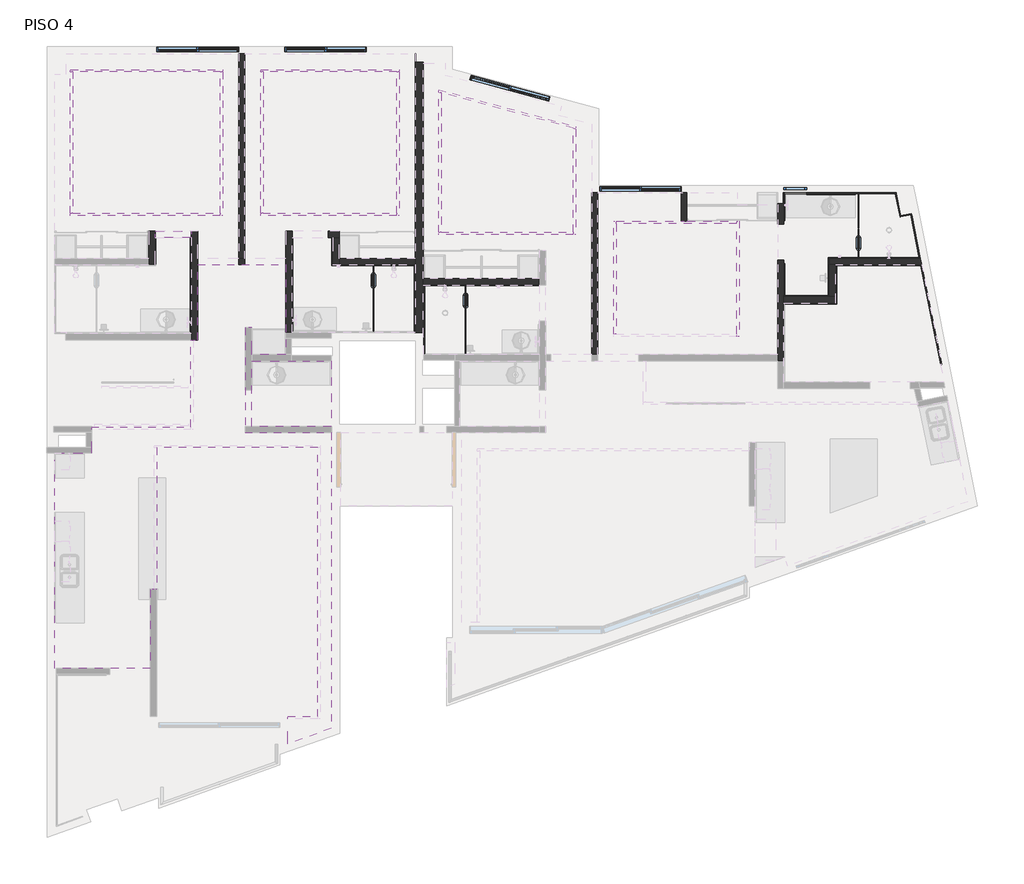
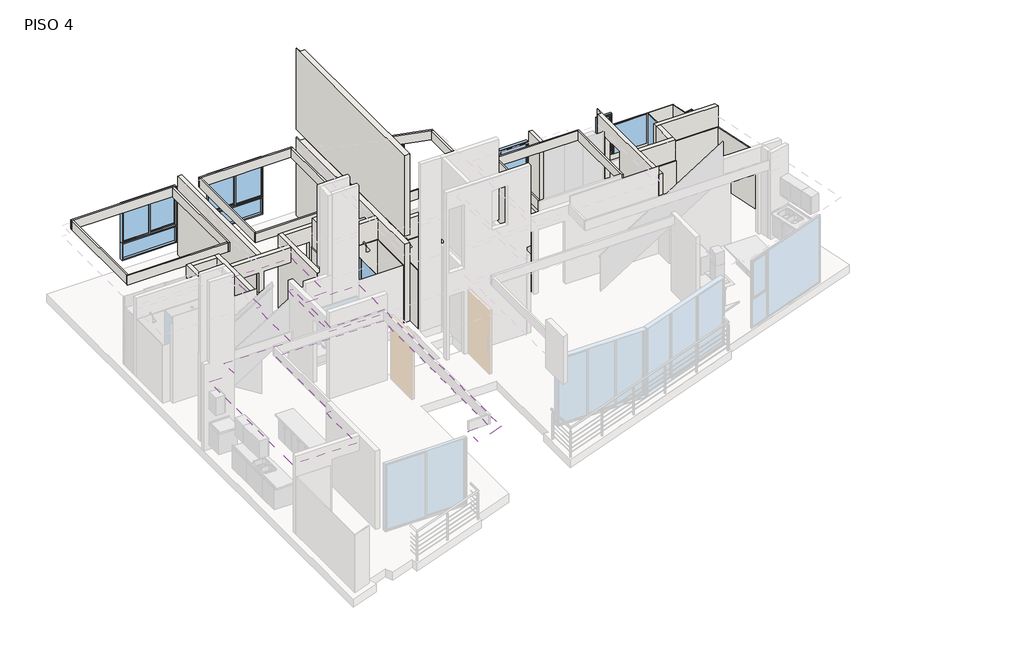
# One storey, part 2 of 3: 53 walls, 9 windows, 2 coverings.
"""IFC4 building model written with IfcOpenShell, lengths in millimetres."""

from ifc_helpers import new_model, si_unit, frame, origin, place, context, project, spatial, polyline, outline, extrude, faceted_brep, transform, mapped, element, save
from components import window_b75bd1a9, window_36b55308, window_504e83ce, window_e2f8e8b7, window_db60b2a9, window_b7257eee, window_5ad79f5d

model = new_model("IFC4")

# Units and contexts
model_context = context("Model", 3, world=origin())
ifc_project = project(units=[si_unit("LENGTHUNIT", "METRE", prefix="MILLI")], contexts=[model_context])

# Site, building, storey
site = spatial("IfcSite", under=ifc_project)
building = spatial("IfcBuilding", under=site)
storey = spatial("IfcBuildingStorey", under=building, Name="PISO 4", Elevation=12000.0)

# Coverings
placement = place(None, origin())
element("IfcCovering", 1, ObjectType="Plafond Tablaroca", at=placement, inside=storey, context=model_context, shape_type="SweptSolid", body=[
    extrude(outline(polyline([(40234.5059119, 31304.0104769), (40234.5059119, 29864.010184), (38484.5059119, 29864.010184), (38484.5059119, 31304.0104769), (39294.5300226, 31304.0104769), (40234.5059119, 31304.0104769)])), frame((0.0, 0.0, 14350.0), z_axis=(0.0, 0.0, 1.0), x_axis=(1.0, 0.0, 0.0)), (0.0, 0.0, 1.0), 52.7),
])
element("IfcCovering", 2, ObjectType="Plafond Tablaroca", at=placement, inside=storey, context=model_context, shape_type="Brep", body=[
    faceted_brep([(34143.8589874, 25532.4819737, 14402.7), (34143.8589874, 24532.4819685, 14402.7), (36254.5300226, 24532.4819685, 14402.7), (36254.5300226, 26269.0176189, 14402.7), (36341.8300226, 26269.0176189, 14402.7), (36394.5300226, 26269.0176189, 14402.7), (36394.5300226, 29394.010184, 14402.7), (39939.5059119, 29394.010184, 14402.7), (39939.5059119, 23470.9402233, 14402.7), (39284.5057602, 23470.9402233, 14402.7), (39284.5057602, 23418.2402233, 14402.7), (39284.5057602, 22864.5526055, 14402.7), (40234.5059119, 23203.0885419, 14402.7), (40234.5059119, 29724.010184, 14402.7), (38344.5059119, 29724.010184, 14402.7), (38344.5059119, 32044.0104769, 14402.7), (38484.5059119, 32044.0104769, 14402.7), (38484.5059119, 31444.0104769, 14402.7), (39234.5300226, 31444.0104769, 14402.7), (39234.5300226, 33428.9784839, 14402.7), (37294.5300226, 33428.9784839, 14402.7), (37294.5300226, 31768.9733508, 14402.7), (37196.5589874, 31768.9733508, 14402.7), (37143.8589874, 31768.9733508, 14402.7), (37143.8589874, 29850.9165883, 14402.7), (34963.8589874, 29850.9165883, 14402.7), (34963.8589874, 29798.2165883, 14402.7), (34963.8589874, 29274.010184, 14402.7), (34143.8589874, 29274.010184, 14402.7), (34143.8589874, 25532.4819737, 14350.0), (34143.8589874, 29274.010184, 14350.0), (34963.8589874, 29274.010184, 14350.0), (34963.8589874, 29850.9165883, 14350.0), (37143.8589874, 29850.9165883, 14350.0), (37143.8589874, 31768.9733508, 14350.0), (37294.5300226, 31768.9733508, 14350.0), (37294.5300226, 33428.9784839, 14350.0), (39234.5300226, 33428.9784839, 14350.0), (39234.5300226, 31444.0104769, 14350.0), (38484.5059119, 31444.0104769, 14350.0), (38484.5059119, 32044.0104769, 14350.0), (38344.5059119, 32044.0104769, 14350.0), (38344.5059119, 29724.010184, 14350.0), (40234.5059119, 29724.010184, 14350.0), (40234.5059119, 23203.0885419, 14350.0), (39284.5057602, 22864.5526055, 14350.0), (39284.5057602, 23470.9402233, 14350.0), (39939.5059119, 23470.9402233, 14350.0), (39939.5059119, 29394.010184, 14350.0), (36394.5300226, 29394.010184, 14350.0), (36394.5300226, 26269.0176189, 14350.0), (36254.5300226, 26269.0176189, 14350.0), (36254.5300226, 24532.4819685, 14350.0), (34143.8589874, 24532.4819685, 14350.0)], [[[0, 1, 2, 3, 4, 5, 6, 7, 8, 9, 10, 11, 12, 13, 14, 15, 16, 17, 18, 19, 20, 21, 22, 23, 24, 25, 26, 27, 28]], [[29, 30, 31, 32, 33, 34, 35, 36, 37, 38, 39, 40, 41, 42, 43, 44, 45, 46, 47, 48, 49, 50, 51, 52, 53]], [[1, 0, 29, 53]], [[2, 1, 53, 52]], [[3, 2, 52, 51]], [[5, 4, 3, 51, 50]], [[6, 5, 50, 49]], [[25, 24, 33, 32]], [[27, 26, 25, 32, 31]], [[28, 27, 31, 30]], [[0, 28, 30, 29]], [[7, 6, 49, 48]], [[13, 12, 44, 43]], [[8, 7, 48, 47]], [[9, 8, 47, 46]], [[11, 10, 9, 46, 45]], [[12, 11, 45, 44]], [[14, 13, 43, 42]], [[15, 14, 42, 41]], [[16, 15, 41, 40]], [[17, 16, 40, 39]], [[18, 17, 39, 38]], [[19, 18, 38, 37]], [[20, 19, 37, 36]], [[21, 20, 36, 35]], [[23, 22, 21, 35, 34]], [[24, 23, 34, 33]]]),
])

# Walls
element("IfcWall", 3, ObjectType="TABLAROCA - 2 CAPAS 1/2\"", at=placement, inside=storey, context=model_context, shape_type="Brep", body=[
    faceted_brep([(47954.5059119, 35014.0104642, 12000.0), (47954.5059119, 34390.3604642, 12000.0), (47954.5059119, 34390.3604642, 14720.0), (47954.5059119, 35014.0104642, 14720.0), (47954.5059119, 35014.0104642, 14350.0), (47954.5059119, 35014.0104642, 12400.0), (48071.9059119, 35014.0104642, 12000.0), (48071.9059119, 35014.0104642, 14720.0), (48071.9059119, 34390.3604642, 14720.0), (48071.9059119, 34390.3604642, 12000.0)], [[[0, 1, 2, 3, 4, 5]], [[6, 7, 8, 9]], [[1, 0, 6, 9]], [[0, 5, 4, 3, 7, 6]], [[2, 1, 9, 8]], [[3, 2, 8, 7]]]),
])
element("IfcWall", 4, ObjectType="Plafond tablaroca", at=placement, inside=storey, context=model_context, shape_type="Brep", body=[
    faceted_brep([(34491.1589874, 37680.4026232, 14402.7), (34543.8589874, 37680.4026232, 14402.7), (37794.5300226, 37680.4026232, 14402.7), (37847.2300226, 37680.4026232, 14402.7), (37847.2300226, 37680.4026232, 14720.0), (37794.5300226, 37680.4026232, 14720.0), (34543.8589874, 37680.4026232, 14720.0), (34491.1589874, 37680.4026232, 14720.0), (34491.1589874, 37733.1026232, 14402.7), (34491.1589874, 37733.1026232, 14720.0), (37847.2300226, 37733.1026232, 14720.0), (37847.2300226, 37733.1026232, 14402.7)], [[[0, 1, 2, 3, 4, 5, 6, 7]], [[8, 9, 10, 11]], [[7, 6, 5, 4, 10, 9]], [[4, 3, 11, 10]], [[0, 7, 9, 8]], [[3, 2, 1, 0, 8, 11]]]),
])
element("IfcWall", 5, ObjectType="Plafond tablaroca", at=placement, inside=storey, context=model_context, shape_type="Brep", body=[
    faceted_brep([(37794.5300226, 37680.4026232, 14402.7), (37794.5300226, 34568.9785701, 14402.7), (37794.5300226, 34516.2785701, 14402.7), (37794.5300226, 34516.2785701, 14720.0), (37794.5300226, 34568.9785701, 14720.0), (37794.5300226, 37680.4026232, 14720.0), (37847.2300226, 37680.4026232, 14402.7), (37847.2300226, 37680.4026232, 14720.0), (37847.2300226, 34516.2785701, 14720.0), (37847.2300226, 34516.2785701, 14402.7)], [[[0, 1, 2, 3, 4, 5]], [[6, 7, 8, 9]], [[5, 4, 3, 8, 7]], [[0, 5, 7, 6]], [[3, 2, 9, 8]], [[2, 1, 0, 6, 9]]]),
])
element("IfcWall", 6, ObjectType="Plafond tablaroca", at=placement, inside=storey, context=model_context, shape_type="Brep", body=[
    faceted_brep([(37794.5300226, 34568.9785701, 14402.7), (34543.8589874, 34568.9785701, 14402.7), (34491.1589874, 34568.9785701, 14402.7), (34491.1589874, 34568.9785701, 14720.0), (34543.8589874, 34568.9785701, 14720.0), (37794.5300226, 34568.9785701, 14720.0), (37794.5300226, 34516.2785701, 14402.7), (37794.5300226, 34516.2785701, 14720.0), (34491.1589874, 34516.2785701, 14720.0), (34491.1589874, 34516.2785701, 14402.7)], [[[0, 1, 2, 3, 4, 5]], [[6, 7, 8, 9]], [[5, 4, 3, 8, 7]], [[0, 5, 7, 6]], [[3, 2, 9, 8]], [[2, 1, 0, 6, 9]]]),
])
element("IfcWall", 7, ObjectType="Plafond tablaroca", at=placement, inside=storey, context=model_context, shape_type="SweptSolid", body=[
    extrude(outline(polyline([(34543.8589874, 37680.4026232), (34543.8589874, 34568.9785701), (34491.1589874, 34568.9785701), (34491.1589874, 37680.4026232), (34543.8589874, 37680.4026232)])), frame((0.0, 0.0, 14402.7), z_axis=(0.0, 0.0, 1.0), x_axis=(1.0, 0.0, 0.0)), (0.0, 0.0, 1.0), 317.3),
])
element("IfcWall", 8, ObjectType="Plafond tablaroca", at=placement, inside=storey, context=model_context, shape_type="Brep", body=[
    faceted_brep([(38681.8300226, 37680.4026232, 14402.7), (38734.5300226, 37680.4026232, 14402.7), (41684.5059119, 37680.4026232, 14402.7), (41737.2059119, 37680.4026232, 14402.7), (41737.2059119, 37680.4026232, 14720.0), (41684.5059119, 37680.4026232, 14720.0), (38734.5300226, 37680.4026232, 14720.0), (38681.8300226, 37680.4026232, 14720.0), (38681.8300226, 37733.1026232, 14402.7), (38681.8300226, 37733.1026232, 14720.0), (41737.2059119, 37733.1026232, 14720.0), (41737.2059119, 37733.1026232, 14402.7)], [[[0, 1, 2, 3, 4, 5, 6, 7]], [[8, 9, 10, 11]], [[7, 6, 5, 4, 10, 9]], [[4, 3, 11, 10]], [[0, 7, 9, 8]], [[3, 2, 1, 0, 8, 11]]]),
])
element("IfcWall", 9, ObjectType="Plafond tablaroca", at=placement, inside=storey, context=model_context, shape_type="Brep", body=[
    faceted_brep([(41684.5059119, 37680.4026232, 14402.7), (41684.5059119, 34568.9785701, 14402.7), (41684.5059119, 34516.2785701, 14402.7), (41684.5059119, 34516.2785701, 14720.0), (41684.5059119, 34568.9785701, 14720.0), (41684.5059119, 37680.4026232, 14720.0), (41737.2059119, 37680.4026232, 14402.7), (41737.2059119, 37680.4026232, 14720.0), (41737.2059119, 34516.2785701, 14720.0), (41737.2059119, 34516.2785701, 14402.7)], [[[0, 1, 2, 3, 4, 5]], [[6, 7, 8, 9]], [[5, 4, 3, 8, 7]], [[0, 5, 7, 6]], [[3, 2, 9, 8]], [[2, 1, 0, 6, 9]]]),
])
element("IfcWall", 10, ObjectType="Plafond tablaroca", at=placement, inside=storey, context=model_context, shape_type="Brep", body=[
    faceted_brep([(41684.5059119, 34568.9785701, 14402.7), (38734.5300226, 34568.9785701, 14402.7), (38681.8300226, 34568.9785701, 14402.7), (38681.8300226, 34568.9785701, 14720.0), (38734.5300226, 34568.9785701, 14720.0), (41684.5059119, 34568.9785701, 14720.0), (41684.5059119, 34516.2785701, 14402.7), (41684.5059119, 34516.2785701, 14720.0), (38681.8300226, 34516.2785701, 14720.0), (38681.8300226, 34516.2785701, 14402.7)], [[[0, 1, 2, 3, 4, 5]], [[6, 7, 8, 9]], [[5, 4, 3, 8, 7]], [[0, 5, 7, 6]], [[3, 2, 9, 8]], [[2, 1, 0, 6, 9]]]),
])
element("IfcWall", 11, ObjectType="Plafond tablaroca", at=placement, inside=storey, context=model_context, shape_type="SweptSolid", body=[
    extrude(outline(polyline([(38734.5300226, 37680.4026232), (38734.5300226, 34568.9785701), (38681.8300226, 34568.9785701), (38681.8300226, 37680.4026232), (38734.5300226, 37680.4026232)])), frame((0.0, 0.0, 14402.7), z_axis=(0.0, 0.0, 1.0), x_axis=(1.0, 0.0, 0.0)), (0.0, 0.0, 1.0), 317.3),
])
element("IfcWall", 12, ObjectType="Plafond tablaroca", at=placement, inside=storey, context=model_context, shape_type="Brep", body=[
    faceted_brep([(42611.8059119, 37233.5489662, 14402.7), (42664.5059119, 37219.3779563, 14402.7), (45574.5059119, 36436.8800645, 14402.7), (45627.2059119, 36422.7090546, 14402.7), (45627.2059119, 36422.7090546, 14720.0), (45574.5059119, 36436.8800645, 14720.0), (42664.5059119, 37219.3779563, 14720.0), (42611.8059119, 37233.5489662, 14720.0), (42611.8059119, 37288.121006, 14402.7), (42611.8059119, 37288.121006, 14720.0), (45627.2059119, 36477.2810943, 14720.0), (45627.2059119, 36477.2810943, 14402.7)], [[[0, 1, 2, 3, 4, 5, 6, 7]], [[8, 9, 10, 11]], [[7, 6, 5, 4, 10, 9]], [[4, 3, 11, 10]], [[0, 7, 9, 8]], [[3, 2, 1, 0, 8, 11]]]),
])
element("IfcWall", 13, ObjectType="Plafond tablaroca", at=placement, inside=storey, context=model_context, shape_type="Brep", body=[
    faceted_brep([(45574.5059119, 36436.8800645, 14402.7), (45574.5059119, 34144.0113905, 14402.7), (45574.5059119, 34091.3113905, 14402.7), (45574.5059119, 34091.3113905, 14720.0), (45574.5059119, 34144.0113905, 14720.0), (45574.5059119, 36436.8800645, 14720.0), (45627.2059119, 36422.7090546, 14402.7), (45627.2059119, 36422.7090546, 14720.0), (45627.2059119, 34091.3113905, 14720.0), (45627.2059119, 34091.3113905, 14402.7)], [[[0, 1, 2, 3, 4, 5]], [[6, 7, 8, 9]], [[5, 4, 3, 8, 7]], [[0, 5, 7, 6]], [[3, 2, 9, 8]], [[2, 1, 0, 6, 9]]]),
])
element("IfcWall", 14, ObjectType="Plafond tablaroca", at=placement, inside=storey, context=model_context, shape_type="Brep", body=[
    faceted_brep([(45574.5059119, 34144.0113905, 14402.7), (42664.5059119, 34144.0113905, 14402.7), (42611.8059119, 34144.0113905, 14402.7), (42611.8059119, 34144.0113905, 14720.0), (42664.5059119, 34144.0113905, 14720.0), (45574.5059119, 34144.0113905, 14720.0), (45574.5059119, 34091.3113905, 14402.7), (45574.5059119, 34091.3113905, 14720.0), (42611.8059119, 34091.3113905, 14720.0), (42611.8059119, 34091.3113905, 14402.7)], [[[0, 1, 2, 3, 4, 5]], [[6, 7, 8, 9]], [[5, 4, 3, 8, 7]], [[0, 5, 7, 6]], [[3, 2, 9, 8]], [[2, 1, 0, 6, 9]]]),
])
element("IfcWall", 15, ObjectType="Plafond tablaroca", at=placement, inside=storey, context=model_context, shape_type="SweptSolid", body=[
    extrude(outline(polyline([(42664.5059119, 37219.3779563), (42664.5059119, 34144.0113905), (42611.8059119, 34144.0113905), (42611.8059119, 37233.5489662), (42664.5059119, 37219.3779563)])), frame((0.0, 0.0, 14402.7), z_axis=(0.0, 0.0, 1.0), x_axis=(1.0, 0.0, 0.0)), (0.0, 0.0, 1.0), 317.3),
])
element("IfcWall", 16, ObjectType="Plafond tablaroca", at=placement, inside=storey, context=model_context, shape_type="Brep", body=[
    faceted_brep([(49174.4822189, 34390.3604642, 14402.7), (49174.4822189, 34337.6604642, 14402.7), (49174.4822189, 31896.7104696, 14402.7), (49174.4822189, 31844.0104696, 14402.7), (49174.4822189, 31844.0104696, 14720.0), (49174.4822189, 31896.7104696, 14720.0), (49174.4822189, 34337.6604642, 14720.0), (49174.4822189, 34390.3604642, 14720.0), (49227.1822189, 34390.3604642, 14402.7), (49227.1822189, 34390.3604642, 14720.0), (49227.1822189, 31844.0104696, 14720.0), (49227.1822189, 31844.0104696, 14402.7)], [[[0, 1, 2, 3, 4, 5, 6, 7]], [[8, 9, 10, 11]], [[7, 6, 5, 4, 10, 9]], [[4, 3, 11, 10]], [[0, 7, 9, 8]], [[3, 2, 1, 0, 8, 11]]]),
])
element("IfcWall", 17, ObjectType="Plafond tablaroca", at=placement, inside=storey, context=model_context, shape_type="Brep", body=[
    faceted_brep([(46514.5059119, 31896.7104696, 14402.7), (46514.5059119, 34337.6604642, 14402.7), (46514.5059119, 34390.3604642, 14402.7), (46514.5059119, 34390.3604642, 14720.0), (46514.5059119, 34337.6604642, 14720.0), (46514.5059119, 31896.7104696, 14720.0), (46461.8059119, 31896.7104696, 14402.7), (46461.8059119, 31896.7104696, 14720.0), (46461.8059119, 34390.3604642, 14720.0), (46461.8059119, 34390.3604642, 14402.7)], [[[0, 1, 2, 3, 4, 5]], [[6, 7, 8, 9]], [[5, 4, 3, 8, 7]], [[0, 5, 7, 6]], [[3, 2, 9, 8]], [[2, 1, 0, 6, 9]]]),
])
element("IfcWall", 18, ObjectType="Plafond tablaroca", at=placement, inside=storey, context=model_context, shape_type="Brep", body=[
    faceted_brep([(46514.5059119, 34337.6604642, 14402.7), (49174.4822189, 34337.6604642, 14402.7), (49174.4822189, 34337.6604642, 14720.0), (46514.5059119, 34337.6604642, 14720.0), (46514.5059119, 34390.3604642, 14402.7), (46514.5059119, 34390.3604642, 14720.0), (47954.5059119, 34390.3604642, 14720.0), (48071.9059119, 34390.3604642, 14720.0), (49174.4822189, 34390.3604642, 14720.0), (49174.4822189, 34390.3604642, 14402.7)], [[[0, 1, 2, 3]], [[4, 5, 6, 7, 8, 9]], [[3, 2, 8, 7, 6, 5]], [[2, 1, 9, 8]], [[0, 3, 5, 4]], [[1, 0, 4, 9]]]),
])
element("IfcWall", 19, ObjectType="Cerámica baño", at=placement, inside=storey, context=model_context, shape_type="Brep", body=[
    faceted_brep([(40249.5059119, 33408.9784839, 12000.0), (42064.5059119, 33408.9784839, 12000.0), (42084.5059119, 33408.9784839, 12000.0), (42084.5059119, 33408.9784839, 14000.0), (42064.5059119, 33408.9784839, 14000.0), (40249.5059119, 33408.9784839, 14000.0), (40249.5059119, 33428.9784839, 12000.0), (40249.5059119, 33428.9784839, 14000.0), (40269.5059119, 33428.9784839, 14000.0), (42084.5059119, 33428.9784839, 14000.0), (42084.5059119, 33428.9784839, 12000.0), (40269.5059119, 33428.9784839, 12000.0)], [[[0, 1, 2, 3, 4, 5]], [[6, 7, 8, 9, 10, 11]], [[2, 1, 0, 6, 11, 10]], [[5, 4, 3, 9, 8, 7]], [[3, 2, 10, 9]], [[0, 5, 7, 6]]]),
])
element("IfcWall", 20, ObjectType="Cerámica baño", at=placement, inside=storey, context=model_context, shape_type="Brep", body=[
    faceted_brep([(42064.5059119, 33408.9784839, 12000.0), (42064.5059119, 31953.9733508, 12000.0), (42064.5059119, 31933.9733508, 12000.0), (42064.5059119, 31933.9733508, 14000.0), (42064.5059119, 31953.9733508, 14000.0), (42064.5059119, 33408.9784839, 14000.0), (42084.5059119, 33408.9784839, 12000.0), (42084.5059119, 33408.9784839, 14000.0), (42084.5059119, 31933.9733508, 14000.0), (42084.5059119, 31933.9733508, 12000.0)], [[[0, 1, 2, 3, 4, 5]], [[6, 7, 8, 9]], [[2, 1, 0, 6, 9]], [[5, 4, 3, 8, 7]], [[3, 2, 9, 8]], [[0, 5, 7, 6]]]),
])
element("IfcWall", 21, ObjectType="Cerámica baño", at=placement, inside=storey, context=model_context, shape_type="SweptSolid", body=[
    extrude(outline(polyline([(42299.5059119, 32964.0113856), (42299.5059119, 31464.0104755), (42279.5059119, 31464.0104755), (42279.5059119, 32964.0113856), (42299.5059119, 32964.0113856)])), frame((0.0, 0.0, 12000.0), z_axis=(0.0, 0.0, 1.0), x_axis=(1.0, 0.0, 0.0)), (0.0, 0.0, 1.0), 2000.0),
])
element("IfcWall", 22, ObjectType="Cerámica baño", at=placement, inside=storey, context=model_context, shape_type="Brep", body=[
    faceted_brep([(42279.5059119, 32964.0113856, 12000.0), (42299.5059119, 32964.0113856, 12000.0), (43179.5059119, 32964.0113856, 12000.0), (43219.5059119, 32964.0113856, 12000.0), (44824.5251366, 32964.0113856, 12000.0), (44824.5251366, 32964.0113856, 14000.0), (42299.5059119, 32964.0113856, 14000.0), (42279.5059119, 32964.0113856, 14000.0), (42279.5059119, 32984.0113856, 12000.0), (42279.5059119, 32984.0113856, 14000.0), (44824.5251366, 32984.0113856, 14000.0), (44824.5251366, 32984.0113856, 12000.0)], [[[0, 1, 2, 3, 4, 5, 6, 7]], [[8, 9, 10, 11]], [[4, 3, 2, 1, 0, 8, 11]], [[7, 6, 5, 10, 9]], [[5, 4, 11, 10]], [[0, 7, 9, 8]]]),
])
element("IfcWall", 23, ObjectType="Cerámica baño", at=placement, inside=storey, context=model_context, shape_type="Brep", body=[
    faceted_brep([(50214.4822189, 34994.0104642, 12000.0), (52670.7130108, 34994.0104642, 12000.0), (52691.1102226, 34994.0104642, 12000.0), (52691.1102226, 34994.0104642, 14000.0), (52670.7130108, 34994.0104642, 14000.0), (50714.4822189, 34994.0104642, 14000.0), (50714.4822189, 34994.0104642, 13000.0), (50214.4822189, 34994.0104642, 13000.0), (50214.4822189, 35014.0104642, 12000.0), (50214.4822189, 35014.0104642, 13000.0), (50714.4822189, 35014.0104642, 13000.0), (50714.4822189, 35014.0104642, 14000.0), (52687.1044459, 35014.0104642, 14000.0), (52687.1044459, 35014.0104642, 12000.0)], [[[0, 1, 2, 3, 4, 5, 6, 7]], [[8, 9, 10, 11, 12, 13]], [[3, 2, 13, 12]], [[2, 1, 0, 8, 13]], [[5, 4, 3, 12, 11]], [[6, 5, 11, 10]], [[7, 6, 10, 9]], [[0, 7, 9, 8]]]),
])
element("IfcWall", 24, ObjectType="Cerámica baño", at=placement, inside=storey, context=model_context, shape_type="Brep", body=[
    faceted_brep([(52670.7130108, 34994.0104642, 12000.0), (52772.9423096, 34483.6010893, 12000.0), (52772.9423096, 34483.6010893, 14000.0), (52670.7130108, 34994.0104642, 14000.0), (52691.1102226, 34994.0104642, 12000.0), (52691.1102226, 34994.0104642, 14000.0), (52788.6250642, 34507.1393817, 14000.0), (52792.5528331, 34487.5288582, 14000.0), (52792.5528331, 34487.5288582, 12000.0), (52788.6250642, 34507.1393817, 12000.0)], [[[0, 1, 2, 3]], [[4, 5, 6, 7, 8, 9]], [[1, 0, 4, 9, 8]], [[3, 2, 7, 6, 5]], [[0, 3, 5, 4]], [[2, 1, 8, 7]]]),
])
element("IfcWall", 25, ObjectType="Cerámica baño", at=placement, inside=storey, context=model_context, shape_type="Brep", body=[
    faceted_brep([(52792.5528331, 34487.5288582, 12000.0), (53008.2685915, 34530.734316, 12000.0), (53027.879115, 34534.6620849, 12000.0), (53027.879115, 34534.6620849, 14000.0), (53008.2685915, 34530.734316, 14000.0), (52792.5528331, 34487.5288582, 14000.0), (53023.9513461, 34554.2726084, 12000.0), (52788.6250642, 34507.1393817, 12000.0), (52788.6250642, 34507.1393817, 14000.0), (53023.9513461, 34554.2726084, 14000.0)], [[[0, 1, 2, 3, 4, 5]], [[6, 7, 8, 9]], [[2, 1, 0, 7, 6]], [[5, 4, 3, 9, 8]], [[0, 5, 8, 7]], [[3, 2, 6, 9]]]),
])
element("IfcWall", 26, ObjectType="Cerámica baño", at=placement, inside=storey, context=model_context, shape_type="Brep", body=[
    faceted_brep([(53008.2685915, 34530.734316, 12000.0), (53196.8917693, 33588.9784839, 12000.0), (53200.897546, 33568.9784839, 12000.0), (53200.897546, 33568.9784839, 14000.0), (53196.8917693, 33588.9784839, 14000.0), (53008.2685915, 34530.734316, 14000.0), (53027.879115, 34534.6620849, 12000.0), (53027.879115, 34534.6620849, 14000.0), (53221.2947578, 33568.9784839, 14000.0), (53221.2947578, 33568.9784839, 12000.0)], [[[0, 1, 2, 3, 4, 5]], [[6, 7, 8, 9]], [[2, 1, 0, 6, 9]], [[5, 4, 3, 8, 7]], [[0, 5, 7, 6]], [[3, 2, 9, 8]]]),
])
element("IfcWall", 27, ObjectType="Cerámica baño", at=placement, inside=storey, context=model_context, shape_type="Brep", body=[
    faceted_brep([(53196.8917693, 33588.9784839, 12000.0), (51876.8917693, 33588.9784839, 12000.0), (51836.8917693, 33588.9784839, 12000.0), (51194.4822189, 33588.9784839, 12000.0), (51194.4822189, 33588.9784839, 14000.0), (53196.8917693, 33588.9784839, 14000.0), (53200.897546, 33568.9784839, 12000.0), (53200.897546, 33568.9784839, 14000.0), (51214.4822189, 33568.9784839, 14000.0), (51194.4822189, 33568.9784839, 14000.0), (51194.4822189, 33568.9784839, 12000.0), (51214.4822189, 33568.9784839, 12000.0)], [[[0, 1, 2, 3, 4, 5]], [[6, 7, 8, 9, 10, 11]], [[3, 2, 1, 0, 6, 11, 10]], [[5, 4, 9, 8, 7]], [[4, 3, 10, 9]], [[0, 5, 7, 6]]]),
])
element("IfcWall", 28, ObjectType="Cerámica baño", at=placement, inside=storey, context=model_context, shape_type="Brep", body=[
    faceted_brep([(51194.4822189, 33568.9784839, 12000.0), (51194.4822189, 32744.0113781, 12000.0), (51194.4822189, 32724.0113781, 12000.0), (51194.4822189, 32724.0113781, 14000.0), (51194.4822189, 32744.0113781, 14000.0), (51194.4822189, 33568.9784839, 14000.0), (51214.4822189, 33568.9784839, 12000.0), (51214.4822189, 33568.9784839, 14000.0), (51214.4822189, 32724.0113781, 14000.0), (51214.4822189, 32724.0113781, 12000.0)], [[[0, 1, 2, 3, 4, 5]], [[6, 7, 8, 9]], [[2, 1, 0, 6, 9]], [[5, 4, 3, 8, 7]], [[0, 5, 7, 6]], [[3, 2, 9, 8]]]),
])
element("IfcWall", 29, ObjectType="Cerámica baño", at=placement, inside=storey, context=model_context, shape_type="Brep", body=[
    faceted_brep([(51194.4822189, 32744.0113781, 12000.0), (50234.4822189, 32744.0113781, 12000.0), (50214.4822189, 32744.0113781, 12000.0), (50214.4822189, 32744.0113781, 14000.0), (50234.4822189, 32744.0113781, 14000.0), (51194.4822189, 32744.0113781, 14000.0), (51194.4822189, 32724.0113781, 12000.0), (51194.4822189, 32724.0113781, 14000.0), (50214.4822189, 32724.0113781, 14000.0), (50214.4822189, 32724.0113781, 12000.0)], [[[0, 1, 2, 3, 4, 5]], [[6, 7, 8, 9]], [[2, 1, 0, 6, 9]], [[5, 4, 3, 8, 7]], [[3, 2, 9, 8]], [[0, 5, 7, 6]]]),
])
element("IfcWall", 30, ObjectType="Cerámica baño", at=placement, inside=storey, context=model_context, shape_type="SweptSolid", body=[
    extrude(outline(polyline([(50234.4822189, 33459.0442532), (50234.4822189, 32744.0113781), (50214.4822189, 32744.0113781), (50214.4822189, 33459.0442532), (50234.4822189, 33459.0442532)])), frame((0.0, 0.0, 12000.0), z_axis=(0.0, 0.0, 1.0), x_axis=(1.0, 0.0, 0.0)), (0.0, 0.0, 1.0), 2000.0),
])
element("IfcWall", 31, ObjectType="Cerámica baño", at=placement, inside=storey, context=model_context, shape_type="Brep", body=[
    faceted_brep([(50234.4822189, 34399.0442532, 12000.0), (50234.4822189, 34994.0104642, 12000.0), (50234.4822189, 34994.0104642, 14000.0), (50234.4822189, 34399.0442532, 14000.0), (50214.4822189, 34399.0442532, 12000.0), (50214.4822189, 34399.0442532, 14000.0), (50214.4822189, 34994.0104642, 14000.0), (50214.4822189, 34994.0104642, 13000.0), (50214.4822189, 34994.0104642, 12000.0)], [[[0, 1, 2, 3]], [[4, 5, 6, 7, 8]], [[1, 0, 4, 8]], [[3, 2, 6, 5]], [[0, 3, 5, 4]], [[2, 1, 8, 7, 6]]]),
])
element("IfcWall", 32, ObjectType="Cerámica baño", at=placement, inside=storey, context=model_context, shape_type="SweptSolid", body=[
    extrude(outline(polyline([(36374.5300226, 34028.9785701), (36374.5300226, 33428.9784839), (36354.5300226, 33428.9784839), (36354.5300226, 34028.9785701), (36374.5300226, 34028.9785701)])), frame((0.0, 0.0, 12000.0), z_axis=(0.0, 0.0, 1.0), x_axis=(1.0, 0.0, 0.0)), (0.0, 0.0, 1.0), 2000.0),
])
element("IfcWall", 33, ObjectType="Cerámica baño", at=placement, inside=storey, context=model_context, shape_type="SweptSolid", body=[
    extrude(outline(polyline([(37154.5300226, 34028.9785701), (37154.5300226, 31928.9733508), (37134.5300226, 31928.9733508), (37134.5300226, 34028.9785701), (37154.5300226, 34028.9785701)])), frame((0.0, 0.0, 12000.0), z_axis=(0.0, 0.0, 1.0), x_axis=(1.0, 0.0, 0.0)), (0.0, 0.0, 1.0), 2000.0),
])
element("IfcWall", 34, ObjectType="Cerámica baño", at=placement, inside=storey, context=model_context, shape_type="SweptSolid", body=[
    extrude(outline(polyline([(39394.5300226, 34028.9785701), (39394.5300226, 31953.9733508), (39374.5300226, 31953.9733508), (39374.5300226, 34028.9785701), (39394.5300226, 34028.9785701)])), frame((0.0, 0.0, 12000.0), z_axis=(0.0, 0.0, 1.0), x_axis=(1.0, 0.0, 0.0)), (0.0, 0.0, 1.0), 2000.0),
])
element("IfcWall", 35, ObjectType="Cerámica baño", at=placement, inside=storey, context=model_context, shape_type="SweptSolid", body=[
    extrude(outline(polyline([(40269.5059119, 34028.9785701), (40269.5059119, 33428.9784839), (40249.5059119, 33428.9784839), (40249.5059119, 34028.9785701), (40269.5059119, 34028.9785701)])), frame((0.0, 0.0, 12000.0), z_axis=(0.0, 0.0, 1.0), x_axis=(1.0, 0.0, 0.0)), (0.0, 0.0, 1.0), 2000.0),
])
element("IfcWall", 36, ObjectType="Cerámica baño", at=placement, inside=storey, context=model_context, shape_type="Brep", body=[
    faceted_brep([(50234.4822189, 32564.0113781, 12000.0), (51374.4822189, 32564.0113781, 12000.0), (51374.4822189, 32564.0113781, 14000.0), (50234.4822189, 32564.0113781, 14000.0), (50234.4822189, 32584.0113781, 12000.0), (50234.4822189, 32584.0113781, 14000.0), (51354.4822189, 32584.0113781, 14000.0), (51374.4822189, 32584.0113781, 14000.0), (51374.4822189, 32584.0113781, 12000.0), (51354.4822189, 32584.0113781, 12000.0)], [[[0, 1, 2, 3]], [[4, 5, 6, 7, 8, 9]], [[1, 0, 4, 9, 8]], [[3, 2, 7, 6, 5]], [[2, 1, 8, 7]], [[0, 3, 5, 4]]]),
])
element("IfcWall", 37, ObjectType="Cerámica baño", at=placement, inside=storey, context=model_context, shape_type="Brep", body=[
    faceted_brep([(51374.4822189, 32584.0113781, 12000.0), (51374.4822189, 33408.9784839, 12000.0), (51374.4822189, 33428.9784839, 12000.0), (51374.4822189, 33428.9784839, 14000.0), (51374.4822189, 33408.9784839, 14000.0), (51374.4822189, 32584.0113781, 14000.0), (51354.4822189, 32584.0113781, 12000.0), (51354.4822189, 32584.0113781, 14000.0), (51354.4822189, 33428.9784839, 14000.0), (51354.4822189, 33428.9784839, 12000.0)], [[[0, 1, 2, 3, 4, 5]], [[6, 7, 8, 9]], [[2, 1, 0, 6, 9]], [[5, 4, 3, 8, 7]], [[0, 5, 7, 6]], [[3, 2, 9, 8]]]),
])
element("IfcWall", 38, ObjectType="Cerámica baño", at=placement, inside=storey, context=model_context, shape_type="Brep", body=[
    faceted_brep([(51374.4822189, 33408.9784839, 12000.0), (53232.9437595, 33408.9784839, 12000.0), (53253.3409713, 33408.9784839, 12000.0), (53253.3409713, 33408.9784839, 14000.0), (53232.9437595, 33408.9784839, 14000.0), (51374.4822189, 33408.9784839, 14000.0), (51374.4822189, 33428.9784839, 12000.0), (51374.4822189, 33428.9784839, 14000.0), (53249.3351946, 33428.9784839, 14000.0), (53249.3351946, 33428.9784839, 12000.0)], [[[0, 1, 2, 3, 4, 5]], [[6, 7, 8, 9]], [[2, 1, 0, 6, 9]], [[5, 4, 3, 8, 7]], [[3, 2, 9, 8]], [[0, 5, 7, 6]]]),
])
element("IfcWall", 39, ObjectType="Cerámica baño", at=placement, inside=storey, context=model_context, shape_type="SweptSolid", body=[
    extrude(outline(polyline([(53669.5081409, 31229.304401), (53232.9437595, 33408.9784839), (53253.3409713, 33408.9784839), (53689.1186644, 31233.2321699), (53669.5081409, 31229.304401)])), frame((0.0, 0.0, 12000.0), z_axis=(0.0, 0.0, 1.0), x_axis=(1.0, 0.0, 0.0)), (0.0, 0.0, 1.0), 2000.0),
])
element("IfcWall", 40, ObjectType="Muro block 14cms_int", at=placement, inside=storey, context=model_context, shape_type="Brep", body=[
    faceted_brep([(37154.5300226, 34168.9785701, 12000.0), (37154.5300226, 31928.9733508, 12000.0), (37154.5300226, 31908.9733508, 12000.0), (37154.5300226, 31768.9733508, 12000.0), (37154.5300226, 31768.9733508, 14720.0), (37154.5300226, 31908.9733508, 14720.0), (37154.5300226, 34028.9785701, 14720.0), (37154.5300226, 34168.9785701, 14720.0), (37154.5300226, 34168.9785701, 14200.0), (37294.5300226, 34168.9785701, 12000.0), (37294.5300226, 34168.9785701, 14720.0), (37294.5300226, 33568.9784839, 14720.0), (37294.5300226, 33428.9784839, 14720.0), (37294.5300226, 31768.9733508, 14720.0), (37294.5300226, 31768.9733508, 12000.0), (37196.5589874, 31768.9733508, 14720.0)], [[[0, 1, 2, 3, 4, 5, 6, 7, 8]], [[9, 10, 11, 12, 13, 14]], [[3, 2, 1, 0, 9, 14]], [[0, 8, 7, 10, 9]], [[3, 14, 13, 15, 4]], [[7, 6, 5, 4, 15, 13, 12, 11, 10]]]),
])
element("IfcWall", 41, ObjectType="Muro block 14cms_int", at=placement, inside=storey, context=model_context, shape_type="Brep", body=[
    faceted_brep([(36214.5300226, 34168.9785701, 12000.0), (36214.5300226, 33568.9784839, 12000.0), (36214.5300226, 33428.9784839, 12000.0), (36214.5300226, 33428.9784839, 14720.0), (36214.5300226, 33568.9784839, 14720.0), (36214.5300226, 34168.9785701, 14720.0), (36354.5300226, 34168.9785701, 12000.0), (36354.5300226, 34168.9785701, 14200.0), (36354.5300226, 34168.9785701, 14720.0), (36354.5300226, 34028.9785701, 14720.0), (36354.5300226, 33428.9784839, 14720.0), (36354.5300226, 33428.9784839, 12000.0)], [[[0, 1, 2, 3, 4, 5]], [[6, 7, 8, 9, 10, 11]], [[2, 1, 0, 6, 11]], [[3, 2, 11, 10]], [[0, 5, 8, 7, 6]], [[5, 4, 3, 10, 9, 8]]]),
])
element("IfcWall", 42, ObjectType="Muro block 14cms_int", at=placement, inside=storey, context=model_context, shape_type="SweptSolid", body=[
    extrude(outline(polyline([(36354.5300226, 34168.9785701), (37154.5300226, 34168.9785701), (37154.5300226, 34028.9785701), (36354.5300226, 34028.9785701), (36354.5300226, 34168.9785701)])), frame((0.0, 0.0, 14200.0), z_axis=(0.0, 0.0, 1.0), x_axis=(1.0, 0.0, 0.0)), (0.0, 0.0, 1.0), 520.0),
])
element("IfcWall", 43, ObjectType="Muro block 14cms_int", at=placement, inside=storey, context=model_context, shape_type="Brep", body=[
    faceted_brep([(45974.5059119, 35014.0104642, 12000.0), (45974.5059119, 31444.0104696, 12000.0), (45974.5059119, 31444.0104696, 14200.0), (45974.5059119, 31444.0104696, 14720.0), (45974.5059119, 35014.0104642, 14720.0), (46114.5059119, 35014.0104642, 12000.0), (46114.5059119, 35014.0104642, 14720.0), (46114.5059119, 31444.0104696, 14720.0), (46114.5059119, 31444.0104696, 14200.0), (46114.5059119, 31444.0104696, 12000.0)], [[[0, 1, 2, 3, 4]], [[5, 6, 7, 8, 9]], [[1, 0, 5, 9]], [[3, 2, 1, 9, 8, 7]], [[0, 4, 6, 5]], [[4, 3, 7, 6]]]),
])
element("IfcWall", 44, ObjectType="Muro block 14cms_int", at=placement, inside=storey, context=model_context, shape_type="Brep", body=[
    faceted_brep([(50074.4822189, 33529.0442532, 12000.0), (50074.4822189, 31444.0104696, 12000.0), (50074.4822189, 31304.0104696, 12000.0), (50074.4822189, 31304.0104696, 13941.1764706), (50074.4822189, 31304.0104696, 14720.0), (50074.4822189, 31330.9168739, 14720.0), (50074.4822189, 31444.0104696, 14720.0), (50074.4822189, 34774.0104642, 14720.0), (50074.4822189, 34774.0104642, 12000.0), (50074.4822189, 34329.0442532, 12000.0), (50074.4822189, 34329.0442532, 14200.0), (50074.4822189, 33529.0442532, 14200.0), (50214.4822189, 31304.0104696, 12000.0), (50214.4822189, 32584.0113781, 12000.0), (50214.4822189, 32724.0113781, 12000.0), (50214.4822189, 33529.0442532, 12000.0), (50214.4822189, 33529.0442532, 14200.0), (50214.4822189, 34329.0442532, 14200.0), (50214.4822189, 34329.0442532, 12000.0), (50214.4822189, 34994.0104642, 12000.0), (50214.4822189, 35014.0104642, 12000.0), (50214.4822189, 35014.0104642, 13000.0), (50214.4822189, 35014.0104642, 14720.0), (50214.4822189, 32724.0113781, 14720.0), (50214.4822189, 32584.0113781, 14720.0), (50214.4822189, 31304.0104696, 14720.0), (50214.4822189, 31304.0104696, 13941.1764706), (50194.4822189, 34774.0104642, 12000.0), (50194.4822189, 35014.0104642, 12000.0), (50194.4822189, 34774.0104642, 14720.0), (50194.4822189, 35014.0104642, 14720.0)], [[[0, 1, 2, 3, 4, 5, 6, 7, 8, 9, 10, 11]], [[12, 13, 14, 15, 16, 17, 18, 19, 20, 21, 22, 23, 24, 25, 26]], [[12, 2, 1, 0, 15, 14, 13]], [[20, 19, 18, 9, 8, 27, 28]], [[11, 16, 15, 0]], [[16, 11, 10, 17]], [[17, 10, 9, 18]], [[2, 12, 26, 25, 4, 3]], [[27, 29, 30, 28]], [[29, 27, 8, 7]], [[22, 21, 20, 28, 30]], [[4, 25, 24, 23, 22, 30, 29, 7, 6, 5]]]),
])
element("IfcWall", 45, ObjectType="Muro block 14cms_int", at=placement, inside=storey, context=model_context, shape_type="Brep", body=[
    faceted_brep([(51214.4822189, 33428.9784839, 12000.0), (51354.4822189, 33428.9784839, 12000.0), (53249.3351946, 33428.9784839, 12000.0), (53249.3351946, 33428.9784839, 14720.0), (51354.4822189, 33428.9784839, 14720.0), (51214.4822189, 33428.9784839, 14720.0), (51214.4822189, 33568.9784839, 12000.0), (51214.4822189, 33568.9784839, 14720.0), (53221.2947578, 33568.9784839, 14720.0), (53221.2947578, 33568.9784839, 12000.0)], [[[0, 1, 2, 3, 4, 5]], [[6, 7, 8, 9]], [[2, 1, 0, 6, 9]], [[3, 2, 9, 8]], [[0, 5, 7, 6]], [[5, 4, 3, 8, 7]]]),
])
element("IfcWall", 46, ObjectType="Muro block 14cms_int", at=placement, inside=storey, context=model_context, shape_type="Brep", body=[
    faceted_brep([(50214.4822189, 32584.0113781, 12000.0), (51354.4822189, 32584.0113781, 12000.0), (51354.4822189, 32584.0113781, 14720.0), (50214.4822189, 32584.0113781, 14720.0), (50214.4822189, 32724.0113781, 12000.0), (50214.4822189, 32724.0113781, 14720.0), (51214.4822189, 32724.0113781, 14720.0), (51354.4822189, 32724.0113781, 14720.0), (51354.4822189, 32724.0113781, 12000.0), (51214.4822189, 32724.0113781, 12000.0)], [[[0, 1, 2, 3]], [[4, 5, 6, 7, 8, 9]], [[1, 0, 4, 9, 8]], [[0, 3, 5, 4]], [[2, 1, 8, 7]], [[3, 2, 7, 6, 5]]]),
])
element("IfcWall", 47, ObjectType="Muro block 14cms_int", at=placement, inside=storey, context=model_context, shape_type="SweptSolid", body=[
    extrude(outline(polyline([(51354.4822189, 33428.9784839), (51354.4822189, 32724.0113781), (51214.4822189, 32724.0113781), (51214.4822189, 33428.9784839), (51354.4822189, 33428.9784839)])), frame((0.0, 0.0, 12000.0), z_axis=(0.0, 0.0, 1.0), x_axis=(1.0, 0.0, 0.0)), (0.0, 0.0, 1.0), 2720.0),
])
element("IfcWall", 48, ObjectType="Muro block 14cms_int", at=placement, inside=storey, context=model_context, shape_type="Brep", body=[
    faceted_brep([(38194.5300226, 33568.9784839, 12000.0), (38194.5300226, 33568.9784839, 14200.0), (37294.5300226, 33568.9784839, 14200.0), (37294.5300226, 33568.9784839, 14720.0), (38194.5300226, 33568.9784839, 14720.0), (38334.5300226, 33568.9784839, 14720.0), (39234.5300226, 33568.9784839, 14720.0), (39234.5300226, 33568.9784839, 14200.0), (38334.5300226, 33568.9784839, 14200.0), (38334.5300226, 33568.9784839, 12000.0), (38194.5300226, 33428.9784839, 14200.0), (38194.5300226, 33428.9784839, 12000.0), (38334.5300226, 33428.9784839, 12000.0), (38334.5300226, 33428.9784839, 14200.0), (39234.5300226, 33428.9784839, 14200.0), (39234.5300226, 33428.9784839, 14720.0), (37294.5300226, 33428.9784839, 14720.0), (37294.5300226, 33428.9784839, 14200.0)], [[[0, 1, 2, 3, 4, 5, 6, 7, 8, 9]], [[10, 11, 12, 13, 14, 15, 16, 17]], [[11, 0, 9, 12]], [[10, 1, 0, 11]], [[1, 10, 17, 2]], [[8, 13, 12, 9]], [[13, 8, 7, 14]], [[3, 2, 17, 16]], [[6, 15, 14, 7]], [[6, 5, 4, 3, 16, 15]]]),
])
element("IfcWall", 49, ObjectType="Muro block 14cms_int", at=placement, inside=storey, context=model_context, shape_type="Brep", body=[
    faceted_brep([(38334.5300226, 33568.9784839, 12000.0), (38334.5300226, 38080.4026232, 12000.0), (38334.5300226, 38080.4026232, 14720.0), (38334.5300226, 33568.9784839, 14720.0), (38334.5300226, 33568.9784839, 14200.0), (38194.5300226, 33568.9784839, 12000.0), (38194.5300226, 33568.9784839, 14200.0), (38194.5300226, 33568.9784839, 14720.0), (38194.5300226, 38080.4026232, 14720.0), (38194.5300226, 38080.4026232, 14350.0), (38194.5300226, 38080.4026232, 12400.0), (38194.5300226, 38080.4026232, 12000.0)], [[[0, 1, 2, 3, 4]], [[5, 6, 7, 8, 9, 10, 11]], [[1, 0, 5, 11]], [[2, 1, 11, 10, 9, 8]], [[0, 4, 3, 7, 6, 5]], [[3, 2, 8, 7]]]),
])
element("IfcWall", 50, ObjectType="Muro block 14cms_int", at=placement, inside=storey, context=model_context, shape_type="Brep", body=[
    faceted_brep([(39374.5300226, 31933.9733508, 12000.0), (39374.5300226, 34168.9785701, 12000.0), (39374.5300226, 34168.9785701, 14200.0), (39374.5300226, 34168.9785701, 14720.0), (39374.5300226, 34028.9785701, 14720.0), (39374.5300226, 31933.9733508, 14720.0), (39234.5300226, 31933.9733508, 12000.0), (39234.5300226, 31933.9733508, 14720.0), (39234.5300226, 33428.9784839, 14720.0), (39234.5300226, 33568.9784839, 14720.0), (39234.5300226, 34168.9785701, 14720.0), (39234.5300226, 34168.9785701, 12000.0)], [[[0, 1, 2, 3, 4, 5]], [[6, 7, 8, 9, 10, 11]], [[1, 0, 6, 11]], [[3, 2, 1, 11, 10]], [[0, 5, 7, 6]], [[5, 4, 3, 10, 9, 8, 7]]]),
])
element("IfcWall", 51, ObjectType="Muro block 14cms_int", at=placement, inside=storey, context=model_context, shape_type="Brep", body=[
    faceted_brep([(40174.5300226, 34028.9785701, 12000.0), (40249.5059119, 34028.9785701, 12000.0), (40269.5059119, 34028.9785701, 12000.0), (40409.5059119, 34028.9785701, 12000.0), (40409.5059119, 34028.9785701, 14720.0), (39374.5300226, 34028.9785701, 14720.0), (39374.5300226, 34028.9785701, 14200.0), (40174.5300226, 34028.9785701, 14200.0), (40409.5059119, 34168.9785701, 12000.0), (40174.5300226, 34168.9785701, 12000.0), (40174.5300226, 34168.9785701, 14200.0), (39374.5300226, 34168.9785701, 14200.0), (39374.5300226, 34168.9785701, 14720.0), (40409.5059119, 34168.9785701, 14720.0)], [[[0, 1, 2, 3, 4, 5, 6, 7]], [[8, 9, 10, 11, 12, 13]], [[3, 2, 1, 0, 9, 8]], [[11, 6, 5, 12]], [[10, 7, 6, 11]], [[7, 10, 9, 0]], [[3, 8, 13, 4]], [[5, 4, 13, 12]]]),
])
element("IfcWall", 52, ObjectType="Muro block 14cms_int", at=placement, inside=storey, context=model_context, shape_type="Brep", body=[
    faceted_brep([(40269.5059119, 34028.9785701, 15000.0), (40269.5059119, 33428.9784839, 15000.0), (40409.5059119, 33428.9784839, 15000.0), (40409.5059119, 33568.9784839, 15000.0), (40409.5059119, 34028.9785701, 15000.0), (40269.5059119, 34028.9785701, 12000.0), (40269.5059119, 33428.9784839, 12000.0), (40409.5059119, 34028.9785701, 12000.0), (40409.5059119, 33428.9784839, 12000.0), (40409.5059119, 33568.9784839, 12000.0)], [[[0, 1, 2, 3, 4]], [[5, 6, 1, 0]], [[7, 4, 3, 2, 8, 9]], [[6, 5, 7, 9, 8]], [[5, 0, 4, 7]], [[1, 6, 8, 2]]]),
])
element("IfcWall", 53, ObjectType="Muro block 14cms_int", at=placement, inside=storey, context=model_context, shape_type="SweptSolid", body=[
    extrude(outline(polyline([(42084.5059119, 33428.9784839), (40409.5059119, 33428.9784839), (40409.5059119, 33568.9784839), (42084.5059119, 33568.9784839), (42084.5059119, 33428.9784839)])), frame((0.0, 0.0, 12000.0), z_axis=(0.0, 0.0, 1.0), x_axis=(1.0, 0.0, 0.0)), (0.0, 0.0, 1.0), 2720.0),
])
element("IfcWall", 54, ObjectType="Muro block 14cms_int", at=placement, inside=storey, context=model_context, shape_type="Brep", body=[
    faceted_brep([(42264.5059119, 32984.0113856, 12000.0), (44824.5251366, 32984.0113856, 12000.0), (44824.5251366, 32984.0113856, 14200.0), (44824.5251366, 32984.0113856, 14720.0), (42264.5059119, 32984.0113856, 14720.0), (42264.5059119, 33124.0113856, 12000.0), (42264.5059119, 33124.0113856, 14720.0), (44824.5251366, 33124.0113856, 14720.0), (44824.5251366, 33124.0113856, 12000.0)], [[[0, 1, 2, 3, 4]], [[5, 6, 7, 8]], [[1, 0, 5, 8]], [[0, 4, 6, 5]], [[3, 2, 1, 8, 7]], [[4, 3, 7, 6]]]),
])
element("IfcWall", 55, ObjectType="Muro block 18cms_ext", at=placement, inside=storey, context=model_context, shape_type="Brep", body=[
    faceted_brep([(42084.5059119, 38080.4026232, 12000.0), (42084.5059119, 33568.9784839, 12000.0), (42084.5059119, 33428.9784839, 12000.0), (42084.5059119, 31933.9733508, 12000.0), (42084.5059119, 31933.9733508, 14720.0), (42084.5059119, 33428.9784839, 14720.0), (42084.5059119, 33568.9784839, 14720.0), (42084.5059119, 38080.4026232, 14720.0), (42264.5059119, 31933.9733508, 12000.0), (42264.5059119, 32984.0113856, 12000.0), (42264.5059119, 33124.0113856, 12000.0), (42264.5059119, 37890.4026232, 12000.0), (42264.5059119, 37890.4026232, 14720.0), (42264.5059119, 33124.0113856, 14720.0), (42264.5059119, 32984.0113856, 14720.0), (42264.5059119, 31933.9733508, 14720.0), (42104.5059119, 38080.4026232, 12000.0), (42104.5059119, 37890.4026232, 12000.0), (42104.5059119, 38080.4026232, 14720.0), (42104.5059119, 37890.4026232, 14720.0)], [[[0, 1, 2, 3, 4, 5, 6, 7]], [[8, 9, 10, 11, 12, 13, 14, 15]], [[3, 2, 1, 0, 16, 17, 11, 10, 9, 8]], [[16, 0, 7, 18]], [[11, 17, 19, 12]], [[17, 16, 18, 19]], [[3, 8, 15, 4]], [[7, 6, 5, 4, 15, 14, 13, 12, 19, 18]]]),
    faceted_brep([(42084.5059119, 31933.9733508, 17800.0), (42084.5059119, 34028.9785701, 17800.0), (42084.5059119, 34168.9785701, 17800.0), (42084.5059119, 38080.4026232, 17800.0), (42084.5059119, 38080.4026232, 15000.0), (42084.5059119, 34168.9785701, 15000.0), (42084.5059119, 34028.9785701, 15000.0), (42084.5059119, 31933.9733508, 15000.0), (42264.5059119, 37890.4026232, 17800.0), (42264.5059119, 34554.0104642, 17800.0), (42264.5059119, 34414.0104642, 17800.0), (42264.5059119, 31933.9733508, 17800.0), (42264.5059119, 31933.9733508, 15000.0), (42264.5059119, 34414.0104642, 15000.0), (42264.5059119, 34554.0104642, 15000.0), (42264.5059119, 37890.4026232, 15000.0), (42259.5059119, 31933.9733508, 17800.0), (42104.5059119, 37890.4026232, 17800.0), (42104.5059119, 38080.4026232, 17800.0), (42104.5059119, 38080.4026232, 15000.0), (42104.5059119, 37890.4026232, 15000.0)], [[[0, 1, 2, 3, 4, 5, 6, 7]], [[8, 9, 10, 11, 12, 13, 14, 15]], [[3, 2, 1, 0, 16, 11, 10, 9, 8, 17, 18]], [[3, 18, 19, 4]], [[17, 8, 15, 20]], [[18, 17, 20, 19]], [[11, 16, 0, 7, 12]], [[7, 6, 5, 4, 19, 20, 15, 14, 13, 12]]]),
])

# Windows
window_shape = window_b75bd1a9(model_context)
element("IfcWindow", 56, ObjectType="VENT_ALUM_CORR_2HOJAS_CORRE_1 FIJO ABAJO : V11-VENT_ALUM_CORR_2HOJAS_CORRE 1.0001", at=placement, inside=storey, context=model_context, shape_type="MappedRepresentation", body=[
    mapped(window_shape, transform((37294.5300226, 38170.4026232, 12100.0), x_axis=(1.0, 0.0, 0.0), y_axis=(0.0, 1.0, 0.0), z_axis=(0.0, 0.0, 1.0))),
])
window_2_shape = window_36b55308(model_context)
element("IfcWindow", 57, ObjectType="VENT_ALUM_CORR_2HOJAS_CORRE_1 FIJO ABAJO : V11-VENT_ALUM_CORR_2HOJAS_CORRE 1.0001", at=placement, inside=storey, context=model_context, shape_type="MappedRepresentation", body=[
    mapped(window_2_shape, transform((40114.5300226, 38170.4026232, 12100.0), x_axis=(-1.0, 0.0, 0.0), y_axis=(0.0, -1.0, 0.0), z_axis=(0.0, 0.0, 1.0))),
])
element("IfcWindow", 58, ObjectType="VENT_ALUM_CORR_2HOJAS_CORRE_1 FIJO ABAJO : V11-VENT_ALUM_CORR_2HOJAS_CORRE 1.0001", at=placement, inside=storey, context=model_context, shape_type="MappedRepresentation", body=[
    mapped(window_2_shape, transform((44175.606962, 37320.4495216, 12100.0), x_axis=(-0.9656959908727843, 0.2596752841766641, 0.0), y_axis=(-0.2596752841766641, -0.9656959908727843, 0.0), z_axis=(0.0, 0.0, 1.0))),
])
element("IfcWindow", 59, ObjectType="VENT_ALUM_CORR_2HOJAS_CORRE_1 FIJO ABAJO : V11-VENT_ALUM_CORR_2HOJAS_CORRE 1.0001", at=placement, inside=storey, context=model_context, shape_type="MappedRepresentation", body=[
    mapped(window_2_shape, transform((47054.5059119, 35104.0104642, 12100.0), x_axis=(-1.0, 0.0, 0.0), y_axis=(0.0, -1.0, 0.0), z_axis=(0.0, 0.0, 1.0))),
])
window_3_shape = window_504e83ce(model_context)
element("IfcWindow", 60, ObjectType="VENT_ALUM_PROY_ARRIBA : V10-VENT_ALUM_PROY_ARRIBA BAÑO", at=placement, inside=storey, context=model_context, shape_type="MappedRepresentation", body=[
    mapped(window_3_shape, transform((50464.4822189, 35104.0104642, 12500.0), x_axis=(-1.0, 0.0, 0.0), y_axis=(0.0, -1.0, 0.0), z_axis=(0.0, 0.0, 1.0))),
])
window_4_shape = window_e2f8e8b7(model_context)
element("IfcWindow", 61, ObjectType="espejo biselado sin marco : ESP4-espejo biselado 107 x 101", at=placement, inside=storey, context=model_context, shape_type="MappedRepresentation", body=[
    mapped(window_4_shape, transform((51249.4822189, 35004.0104642, 13000.0), x_axis=(-1.0, 0.0, 0.0), y_axis=(0.0, -1.0, 0.0), z_axis=(0.0, 0.0, 1.0))),
])
window_5_shape = window_db60b2a9(model_context)
element("IfcWindow", 62, ObjectType="Baño 1 Puerta lateral - toallero simple : CA02-cancel baño-1.50", at=placement, inside=storey, context=model_context, shape_type="MappedRepresentation", body=[
    mapped(window_5_shape, transform((43199.5059119, 32214.0104755, 12000.0), x_axis=(0.0, 1.0, 0.0), y_axis=(-1.0, 0.0, 0.0), z_axis=(0.0, 0.0, 1.0))),
])
window_6_shape = window_b7257eee(model_context)
element("IfcWindow", 63, ObjectType="Baño 1 Puerta lateral - toallero simple : CA01-cancel baño-1.455", at=placement, inside=storey, context=model_context, shape_type="MappedRepresentation", body=[
    mapped(window_6_shape, transform((41164.5059119, 32681.4733508, 12000.0), x_axis=(0.0, 1.0, 0.0), y_axis=(-1.0, 0.0, 0.0), z_axis=(0.0, 0.0, 1.0))),
])
window_7_shape = window_5ad79f5d(model_context)
element("IfcWindow", 64, ObjectType="Baño 1 Puerta lateral - toallero simple : CA04-cancel baño-1.41", at=placement, inside=storey, context=model_context, shape_type="MappedRepresentation", body=[
    mapped(window_7_shape, transform((51856.8917693, 34289.0104642, 12000.0), x_axis=(0.0, -1.0, 0.0), y_axis=(1.0, 0.0, 0.0), z_axis=(0.0, 0.0, 1.0))),
])

save(model, "model.ifc")
